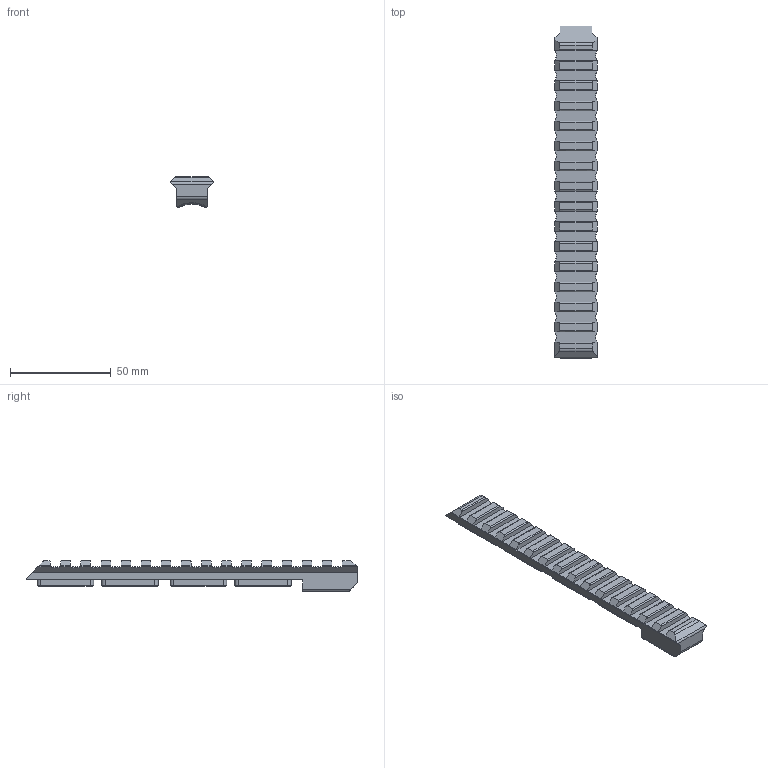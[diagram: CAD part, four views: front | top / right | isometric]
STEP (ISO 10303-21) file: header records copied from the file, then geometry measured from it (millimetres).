
FILE_DESCRIPTION(/* description */ (''),/* implementation_level */ '2;1');
FILE_NAME(/* name */ 'C:/Users/FFFTech/3D Objects/The Bad Stuff/Firearms Related/Firearms Parts/10-22 Parts/Receivers/L-X22 Receivers/STEP Files/Model O/Model O 1913 Rail.step',/* time_stamp */ '2021-08-08T16:46:16-04:00',/* author */ (''),/* organization */ (''),/* preprocessor_version */ 'ST-DEVELOPER v18.1',/* originating_system */ 'Autodesk Translation Framework v10.9.0.1377',/* authorisation */ '');
FILE_SCHEMA (('AUTOMOTIVE_DESIGN { 1 0 10303 214 3 1 1 }'));
Length unit declared in the file: millimetre
Products named in the file (1): Model O Rail
Bounding box: 20.97 x 165.06 x 15.37 mm (x, y, z)
Volume: 27458.4 mm3; surface area: 11669.2 mm2
Topology: 1 solids, 1 shells, 274 faces, 712 edges, 444 vertices
Faces by surface type: plane 172, cylinder 85, cone 16, bspline 1
Entity records: 8341 total; most frequent: CARTESIAN_POINT 1470, DIRECTION 1447, ORIENTED_EDGE 1424, EDGE_CURVE 712, LINE 521, VECTOR 521, AXIS2_PLACEMENT_3D 463, VERTEX_POINT 444
